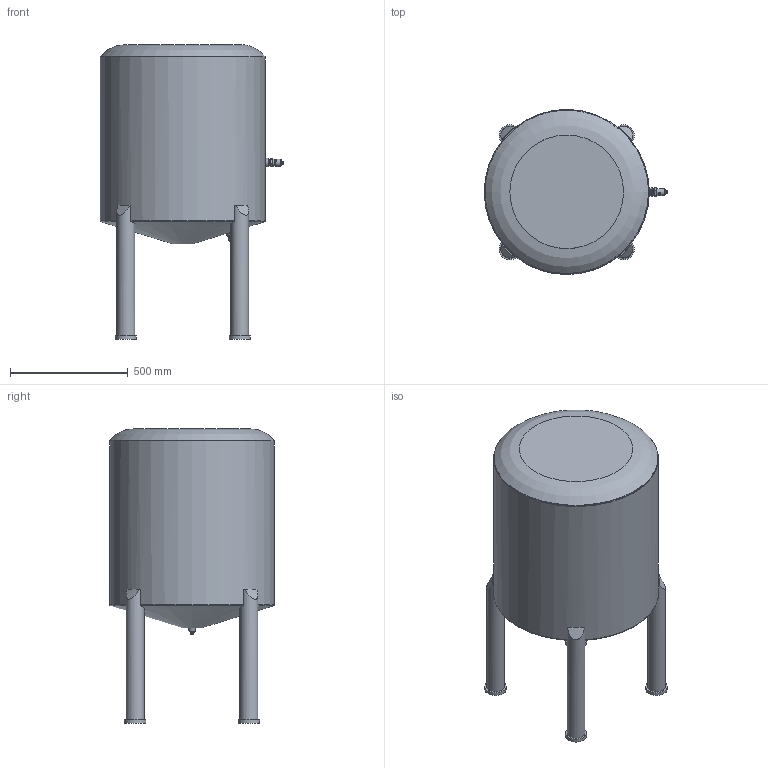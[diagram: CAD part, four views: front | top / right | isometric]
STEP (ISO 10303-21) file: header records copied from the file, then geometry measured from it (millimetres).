
FILE_DESCRIPTION(/* description */ ('Unknown'),/* implementation_level */ '2;1');
FILE_NAME(/* name */ 'WOL-34NL_SR-Sensors_Tank',/* time_stamp */ '2023-02-08T11:08:02-05:00',/* author */ ('Unknown'),/* organization */ ('Unknown'),/* preprocessor_version */ 'ST-DEVELOPER v16.7',/* originating_system */ 'Solid Edge',/* authorisation */ 'Unknown');
FILE_SCHEMA (('AUTOMOTIVE_DESIGN {1 0 10303 214 3 1 1}'));
Length unit declared in the file: millimetre
Products named in the file (5): WOL-34NL_Tank; Tank_1; P1_A; P4_A; P5_A
Assembly tree (5 placements, depth 2):
  WOL-34NL_Tank
    Tank_1
    P1_A  x2
    P4_A
    P5_A
Bounding box: 778.81 x 700 x 1250.55 mm (x, y, z)
Volume: 19788520.5 mm3; surface area: 5192643.7 mm2
Topology: 4 solids, 5 shells, 553 faces, 1402 edges, 872 vertices
Faces by surface type: bspline 184, plane 180, cylinder 104, cone 50, sphere 20, torus 15
Full cylindrical faces by diameter (mm): 0.8 x16, 5 x2, 8 x3, 12 x14, 16 x2, 24 x2, 30 x2, 37 x2, 76 x4, 90 x4, 690 x1, 700 x1
Entity records: 38633 total; most frequent: CARTESIAN_POINT 25151, ORIENTED_EDGE 2230, DIRECTION 1579, EDGE_CURVE 1115, VERTEX_POINT 740, EDGE_LOOP 657, FACE_BOUND 657, AXIS2_PLACEMENT_3D 573
